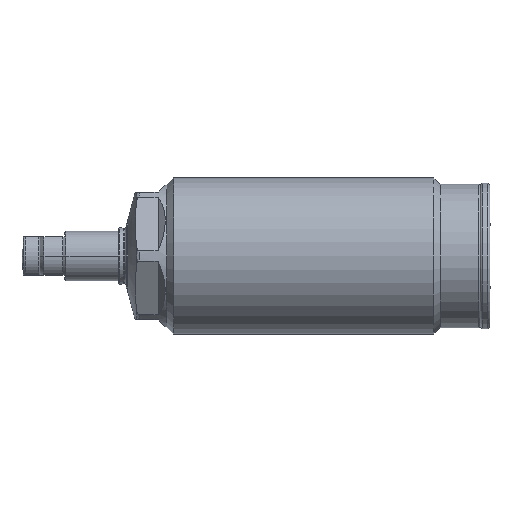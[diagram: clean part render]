
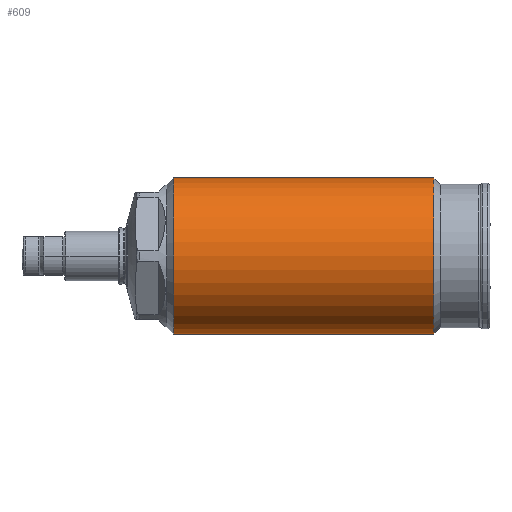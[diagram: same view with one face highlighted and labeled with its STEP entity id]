
A CAD part, left-side view. The second image highlights one B-rep face of the part: STEP entity #609.
In plain terms, the highlighted cylindrical face has radius 11 mm (diameter 22 mm), a partial arc.
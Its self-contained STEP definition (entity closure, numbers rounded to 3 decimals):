
#314=CYLINDRICAL_SURFACE('',#2864,11.);
#368=LINE('',#4214,#469);
#369=LINE('',#4215,#470);
#469=VECTOR('',#3264,1.);
#470=VECTOR('',#3265,1.);
#609=ADVANCED_FACE('',(#838),#314,.T.);
#838=FACE_OUTER_BOUND('',#1003,.T.);
#1003=EDGE_LOOP('',(#1397,#1398,#1399,#1400));
#1397=ORIENTED_EDGE('',*,*,#2169,.F.);
#1398=ORIENTED_EDGE('',*,*,#2259,.T.);
#1399=ORIENTED_EDGE('',*,*,#2170,.T.);
#1400=ORIENTED_EDGE('',*,*,#2260,.F.);
#1931=VERTEX_POINT('',#4206);
#1932=VERTEX_POINT('',#4208);
#1933=VERTEX_POINT('',#4212);
#1934=VERTEX_POINT('',#4213);
#2169=EDGE_CURVE('',#1934,#1932,#368,.T.);
#2170=EDGE_CURVE('',#1933,#1931,#369,.T.);
#2259=EDGE_CURVE('',#1934,#1933,#2566,.T.);
#2260=EDGE_CURVE('',#1932,#1931,#2567,.T.);
#2566=CIRCLE('',#2861,11.);
#2567=CIRCLE('',#2863,11.);
#2861=AXIS2_PLACEMENT_3D('',#4561,#3490,#3491);
#2863=AXIS2_PLACEMENT_3D('',#4563,#3494,#3495);
#2864=AXIS2_PLACEMENT_3D('',#4564,#3496,#3497);
#3264=DIRECTION('',(0.,1.,0.));
#3265=DIRECTION('',(0.,1.,0.));
#3490=DIRECTION('',(0.,1.,0.));
#3491=DIRECTION('',(0.,0.,1.));
#3494=DIRECTION('',(0.,1.,0.));
#3495=DIRECTION('',(0.,0.,1.));
#3496=DIRECTION('',(0.,1.,0.));
#3497=DIRECTION('',(0.,0.,-1.));
#4206=CARTESIAN_POINT('',(0.,47.46,11.));
#4208=CARTESIAN_POINT('',(0.,47.46,-11.));
#4212=CARTESIAN_POINT('',(0.,10.76,11.));
#4213=CARTESIAN_POINT('',(0.,10.76,-11.));
#4214=CARTESIAN_POINT('',(0.,69.982,-11.));
#4215=CARTESIAN_POINT('',(0.,69.982,11.));
#4561=CARTESIAN_POINT('',(0.,10.76,0.));
#4563=CARTESIAN_POINT('',(0.,47.46,0.));
#4564=CARTESIAN_POINT('',(0.,69.982,0.));
